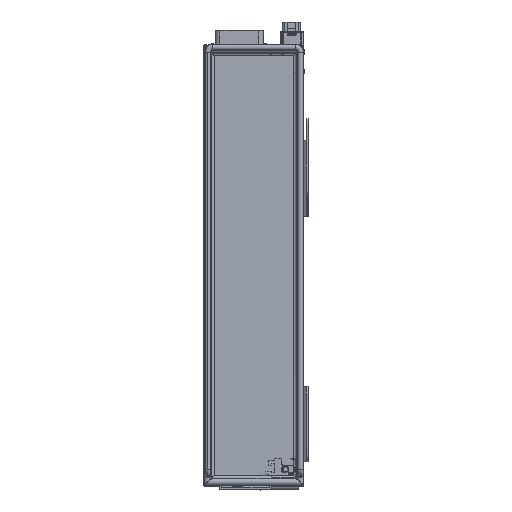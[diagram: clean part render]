
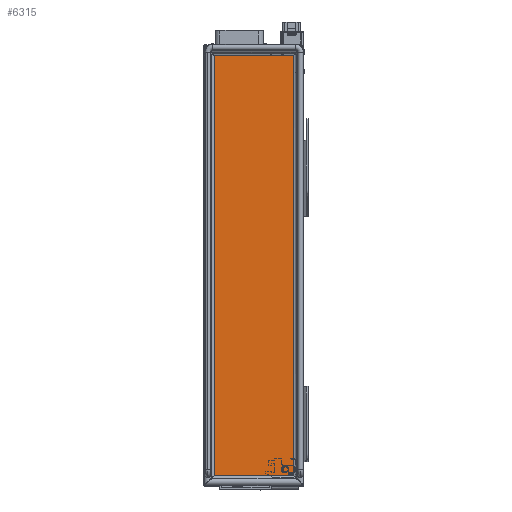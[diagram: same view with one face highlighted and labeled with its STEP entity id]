
A CAD part, top view. The second image highlights one B-rep face of the part: STEP entity #6315.
In plain terms, the highlighted planar face has unit normal (0, 0, 1).
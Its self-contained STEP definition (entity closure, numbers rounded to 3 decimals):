
#6315=ADVANCED_FACE('',(#12844),#12845,.F.);
#12844=FACE_OUTER_BOUND('',#25899,.T.);
#12845=PLANE('',#25900);
#25899=EDGE_LOOP('',(#45619,#45620,#45621,#45622));
#25900=AXIS2_PLACEMENT_3D('',#45623,#45624,#45625);
#45619=ORIENTED_EDGE('',*,*,#53869,.F.);
#45620=ORIENTED_EDGE('',*,*,#53867,.F.);
#45621=ORIENTED_EDGE('',*,*,#53865,.F.);
#45622=ORIENTED_EDGE('',*,*,#53903,.F.);
#45623=CARTESIAN_POINT('',(-56.2,232.7,431.8));
#45624=DIRECTION('',(0.,0.,-1.0));
#45625=DIRECTION('',(1.0,0.,0.));
#53865=EDGE_CURVE('',#65250,#65073,#65254,.T.);
#53867=EDGE_CURVE('',#65073,#65078,#65256,.T.);
#53869=EDGE_CURVE('',#65078,#65258,#65259,.T.);
#53903=EDGE_CURVE('',#65258,#65250,#65309,.T.);
#65073=VERTEX_POINT('',#90098);
#65078=VERTEX_POINT('',#90150);
#65250=VERTEX_POINT('',#90874);
#65254=LINE('',#90902,#90903);
#65256=LINE('',#90905,#90906);
#65258=VERTEX_POINT('',#90908);
#65259=LINE('',#90909,#90910);
#65309=LINE('',#91042,#91043);
#90098=CARTESIAN_POINT('',(-14.7,451.2,431.8));
#90150=CARTESIAN_POINT('',(-14.7,14.2,431.8));
#90874=CARTESIAN_POINT('',(-97.7,451.2,431.8));
#90902=CARTESIAN_POINT('',(-97.7,451.2,431.8));
#90903=VECTOR('',#100621,83.0);
#90905=CARTESIAN_POINT('',(-14.7,451.2,431.8));
#90906=VECTOR('',#100622,437.0);
#90908=CARTESIAN_POINT('',(-97.7,14.2,431.8));
#90909=CARTESIAN_POINT('',(-14.7,14.2,431.8));
#90910=VECTOR('',#100623,83.0);
#91042=CARTESIAN_POINT('',(-97.7,14.2,431.8));
#91043=VECTOR('',#100658,437.0);
#100621=DIRECTION('',(1.0,0.,0.));
#100622=DIRECTION('',(0.,-1.0,0.));
#100623=DIRECTION('',(-1.0,0.,0.));
#100658=DIRECTION('',(0.,1.0,0.));
